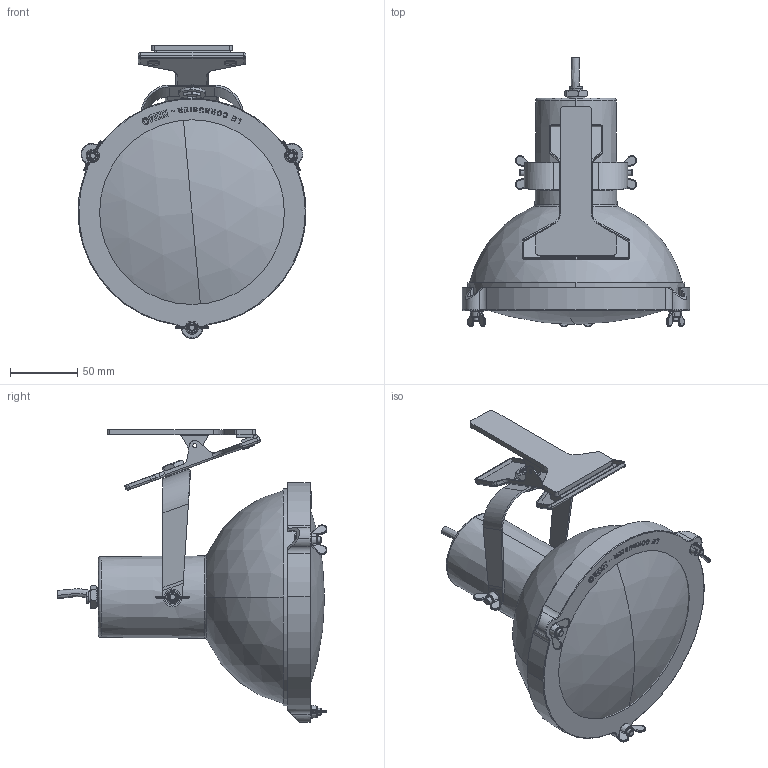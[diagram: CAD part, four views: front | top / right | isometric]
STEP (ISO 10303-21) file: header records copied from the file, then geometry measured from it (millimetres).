
FILE_DESCRIPTION (( 'STEP AP203' ), '1' );
FILE_NAME ('800PRPFDW111.STEP', '2016-09-07T10:23:31', ( '' ), ( '' ), 'SwSTEP 2.0', 'SolidWorks 2016', '' );
FILE_SCHEMA (( 'CONFIG_CONTROL_DESIGN' ));
Length unit declared in the file: millimetre
Products named in the file (26): 001COM000004 - ROND PIAN 10,5X20X2 ZN N UNI 6592; rivetto d3; vite testa esagonale M5 x 20; 010PRP700100_SCHERMO AL D165_Prova per piotto; 800PRPFDW111; corpo projecteur 165 - 800PRPFDW; 003COM000008_DADO AD ALETTE M5 UNI 5448; 052PRP700100_FLANGIA PRP; morsetto_A; 010PRP700310_ATTACCO FLANGIA; rondella dentellata d 5; morsetto_B; e27_clic (2); tige; cavo; 052PRP700200_BLOCCAVETRO PRP_perno a pressione; rondella dentellata d 10 int; Molla a tazza 10.2x20x0.4; 010PRP700200_STAFFA PRP_lunga; d_m10x1_basso; 019COM000274 - ranella 10.5x17x1 steab 5300-10-1-2; 061PRP000100_VETRO D164 BOMB.13CM; Molla a tazza 6.2x12x0.5; Dado 12401 Sacla; 019COM000030; 081COM000567
Assembly tree (46 placements, depth 3):
  800PRPFDW111
    corpo projecteur 165 - 800PRPFDW
      010PRP700100_SCHERMO AL D165_Prova per piotto
      052PRP700100_FLANGIA PRP
      rondella dentellata d 5  x2
      tige
      rondella dentellata d 10 int
      d_m10x1_basso
      Molla a tazza 6.2x12x0.5  x4
      081COM000567
      vite testa esagonale M5 x 20  x2
      003COM000008_DADO AD ALETTE M5 UNI 5448  x5
      010PRP700310_ATTACCO FLANGIA  x3
      e27_clic (2)
      052PRP700200_BLOCCAVETRO PRP_perno a pressione  x3
      010PRP700200_STAFFA PRP_lunga
      061PRP000100_VETRO D164 BOMB.13CM
      019COM000030  x2
      rivetto d3  x6
    morsetto_A
    morsetto_B
    cavo
    Molla a tazza 10.2x20x0.4
    d_m10x1_basso
    019COM000274 - ranella 10.5x17x1 steab 5300-10-1-2  x2
    Dado 12401 Sacla
    001COM000004 - ROND PIAN 10,5X20X2 ZN N UNI 6592
Bounding box: 169 x 200.12 x 217.27 mm (x, y, z)
Volume: 232699.6 mm3; surface area: 250195.9 mm2
Topology: 51 solids, 51 shells, 2502 faces, 6421 edges, 4026 vertices
Faces by surface type: plane 1152, cylinder 665, cone 228, torus 211, bspline 190, sphere 56
Entity records: 59030 total; most frequent: CARTESIAN_POINT 14086, ORIENTED_EDGE 8894, DIRECTION 8503, EDGE_CURVE 4447, AXIS2_PLACEMENT_3D 2867, VERTEX_POINT 2846, VECTOR 2769, LINE 2769
